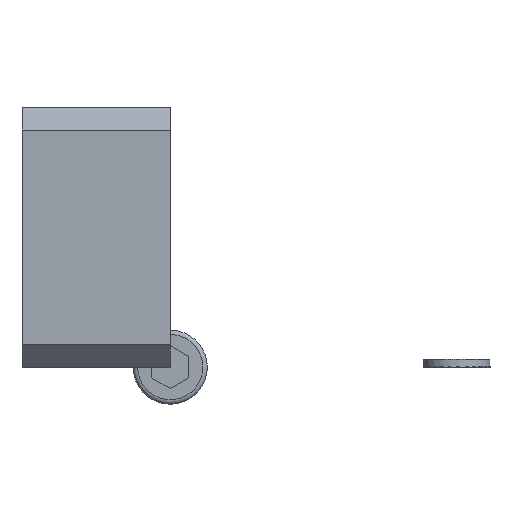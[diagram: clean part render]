
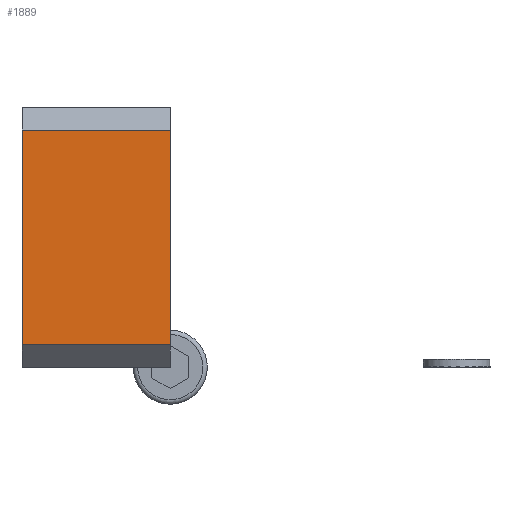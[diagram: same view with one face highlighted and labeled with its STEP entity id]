
A CAD part, left-side view. The second image highlights one B-rep face of the part: STEP entity #1889.
In plain terms, the highlighted planar face has unit normal (-1, 0, 0).
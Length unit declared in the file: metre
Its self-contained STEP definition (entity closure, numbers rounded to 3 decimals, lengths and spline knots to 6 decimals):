
#1889 = ADVANCED_FACE( '', ( #3906 ), #3907, .T. );
#3906 = FACE_OUTER_BOUND( '', #4777, .T. );
#3907 = PLANE( '', #4778 );
#4777 = EDGE_LOOP( '', ( #6204, #6205, #6206, #6207 ) );
#4778 = AXIS2_PLACEMENT_3D( '', #6208, #6209, #6210 );
#6204 = ORIENTED_EDGE( '', *, *, #7849, .T. );
#6205 = ORIENTED_EDGE( '', *, *, #7906, .T. );
#6206 = ORIENTED_EDGE( '', *, *, #7878, .F. );
#6207 = ORIENTED_EDGE( '', *, *, #7905, .T. );
#6208 = CARTESIAN_POINT( '', ( -0.094, 0.02, 0.035 ) );
#6209 = DIRECTION( '', ( -1., 0., 0. ) );
#6210 = DIRECTION( '', ( 0., 0., 1. ) );
#7849 = EDGE_CURVE( '', #8936, #8934, #8937, .T. );
#7878 = EDGE_CURVE( '', #8989, #8991, #8992, .T. );
#7905 = EDGE_CURVE( '', #8989, #8936, #9032, .T. );
#7906 = EDGE_CURVE( '', #8934, #8991, #9033, .T. );
#8934 = VERTEX_POINT( '', #9125 );
#8936 = VERTEX_POINT( '', #9128 );
#8937 = LINE( '', #9129, #9130 );
#8989 = VERTEX_POINT( '', #9202 );
#8991 = VERTEX_POINT( '', #9205 );
#8992 = LINE( '', #9206, #9207 );
#9032 = LINE( '', #9268, #9269 );
#9033 = LINE( '', #9270, #9271 );
#9125 = CARTESIAN_POINT( '', ( -0.094, 0.02, 0.003 ) );
#9128 = CARTESIAN_POINT( '', ( -0.094, 0.02, 0.032 ) );
#9129 = CARTESIAN_POINT( '', ( -0.094, 0.02, 0.035 ) );
#9130 = VECTOR( '', #9336, 1. );
#9202 = CARTESIAN_POINT( '', ( -0.094, 0., 0.032 ) );
#9205 = CARTESIAN_POINT( '', ( -0.094, 0., 0.003 ) );
#9206 = CARTESIAN_POINT( '', ( -0.094, 0., 0.035 ) );
#9207 = VECTOR( '', #9379, 1. );
#9268 = CARTESIAN_POINT( '', ( -0.094, 0.02, 0.032 ) );
#9269 = VECTOR( '', #9416, 1. );
#9270 = CARTESIAN_POINT( '', ( -0.094, 0.02, 0.003 ) );
#9271 = VECTOR( '', #9417, 1. );
#9336 = DIRECTION( '', ( 0., 0., -1. ) );
#9379 = DIRECTION( '', ( 0., 0., -1. ) );
#9416 = DIRECTION( '', ( 0., 1., 0. ) );
#9417 = DIRECTION( '', ( 0., -1., 0. ) );
